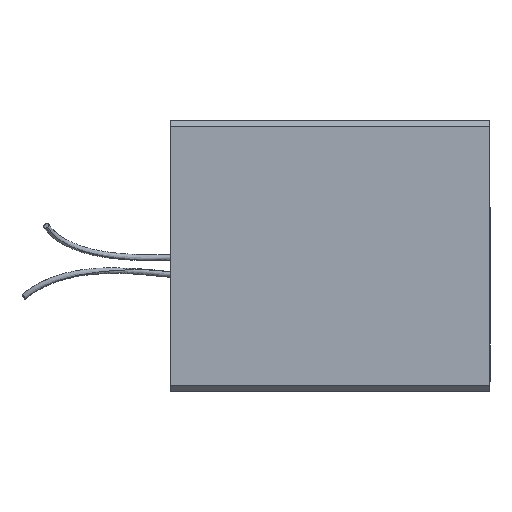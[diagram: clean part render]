
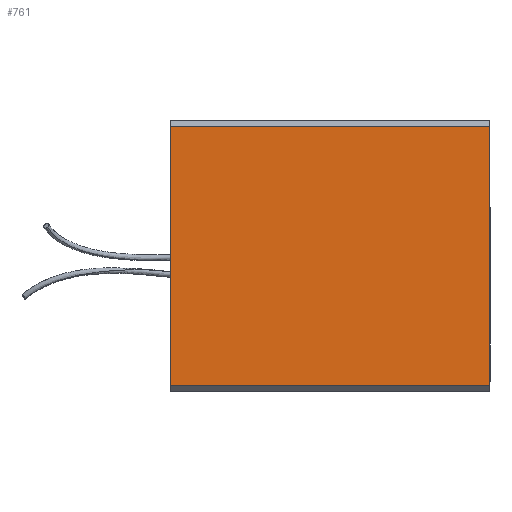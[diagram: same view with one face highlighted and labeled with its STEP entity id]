
A CAD part, front view. The second image highlights one B-rep face of the part: STEP entity #761.
In plain terms, the highlighted planar face has unit normal (0, -1, 0).
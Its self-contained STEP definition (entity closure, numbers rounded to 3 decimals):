
#75 = ORIENTED_EDGE ( 'NONE', *, *, #2147, .T. ) ;
#322 = VERTEX_POINT ( 'NONE', #2424 ) ;
#375 = LINE ( 'NONE', #810, #2524 ) ;
#390 = DIRECTION ( 'NONE',  ( 0., 0., -1. ) ) ;
#583 = LINE ( 'NONE', #1522, #2736 ) ;
#602 = AXIS2_PLACEMENT_3D ( 'NONE', #2022, #659, #2249 ) ;
#659 = DIRECTION ( 'NONE',  ( 0., 1., 0. ) ) ;
#718 = ORIENTED_EDGE ( 'NONE', *, *, #1717, .T. ) ;
#761 = ADVANCED_FACE ( 'NONE', ( #2604 ), #1116, .F. ) ;
#783 = ORIENTED_EDGE ( 'NONE', *, *, #2533, .T. ) ;
#810 = CARTESIAN_POINT ( 'NONE',  ( 53., -22.5, -21.5 ) ) ;
#817 = VECTOR ( 'NONE', #390, 1000. ) ;
#829 = VERTEX_POINT ( 'NONE', #2774 ) ;
#860 = CARTESIAN_POINT ( 'NONE',  ( 0., -22.5, 22.5 ) ) ;
#873 = CARTESIAN_POINT ( 'NONE',  ( 53., -22.5, 21.5 ) ) ;
#996 = VERTEX_POINT ( 'NONE', #1561 ) ;
#1036 = DIRECTION ( 'NONE',  ( 1., 0., 0. ) ) ;
#1073 = ORIENTED_EDGE ( 'NONE', *, *, #1649, .F. ) ;
#1113 = DIRECTION ( 'NONE',  ( -1., 0., 0. ) ) ;
#1116 = PLANE ( 'NONE',  #602 ) ;
#1522 = CARTESIAN_POINT ( 'NONE',  ( 53., -22.5, 22.5 ) ) ;
#1561 = CARTESIAN_POINT ( 'NONE',  ( 53., -22.5, -21.5 ) ) ;
#1590 = VERTEX_POINT ( 'NONE', #2920 ) ;
#1649 = EDGE_CURVE ( 'NONE', #322, #996, #583, .T. ) ;
#1717 = EDGE_CURVE ( 'NONE', #1590, #829, #2589, .T. ) ;
#1833 = EDGE_LOOP ( 'NONE', ( #718, #783, #1073, #75 ) ) ;
#2022 = CARTESIAN_POINT ( 'NONE',  ( 53., -22.5, 22.5 ) ) ;
#2147 = EDGE_CURVE ( 'NONE', #322, #1590, #2508, .T. ) ;
#2204 = DIRECTION ( 'NONE',  ( 0., 0., -1. ) ) ;
#2249 = DIRECTION ( 'NONE',  ( 0., 0., 1. ) ) ;
#2409 = VECTOR ( 'NONE', #1113, 1000. ) ;
#2424 = CARTESIAN_POINT ( 'NONE',  ( 53., -22.5, 21.5 ) ) ;
#2508 = LINE ( 'NONE', #873, #2409 ) ;
#2524 = VECTOR ( 'NONE', #1036, 1000. ) ;
#2533 = EDGE_CURVE ( 'NONE', #829, #996, #375, .T. ) ;
#2589 = LINE ( 'NONE', #860, #817 ) ;
#2604 = FACE_OUTER_BOUND ( 'NONE', #1833, .T. ) ;
#2736 = VECTOR ( 'NONE', #2204, 1000. ) ;
#2774 = CARTESIAN_POINT ( 'NONE',  ( 0., -22.5, -21.5 ) ) ;
#2920 = CARTESIAN_POINT ( 'NONE',  ( 0., -22.5, 21.5 ) ) ;
